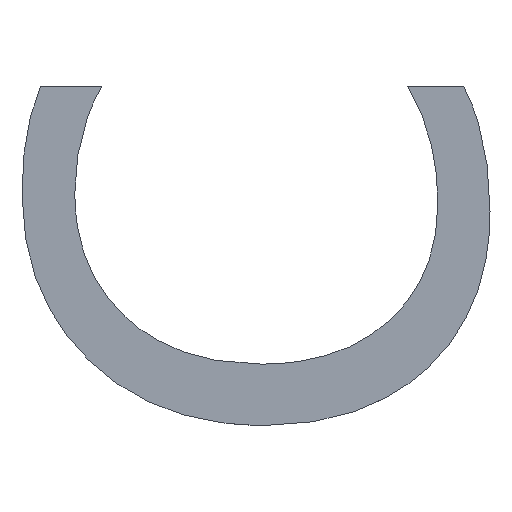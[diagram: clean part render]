
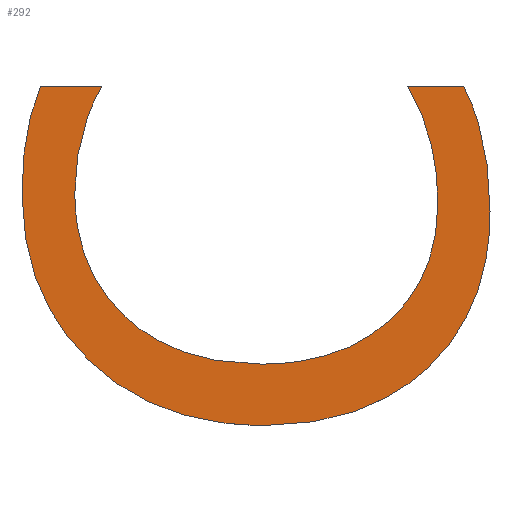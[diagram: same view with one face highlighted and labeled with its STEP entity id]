
A CAD part, top view. The second image highlights one B-rep face of the part: STEP entity #292.
In plain terms, the highlighted planar face has unit normal (0, 0, 1).
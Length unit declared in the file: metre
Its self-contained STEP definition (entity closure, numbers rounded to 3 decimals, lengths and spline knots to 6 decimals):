
#26=LINE('',#521,#44);
#27=LINE('',#553,#45);
#44=VECTOR('',#428,1.);
#45=VECTOR('',#429,1.);
#74=ORIENTED_EDGE('',*,*,#158,.T.);
#75=ORIENTED_EDGE('',*,*,#159,.T.);
#76=ORIENTED_EDGE('',*,*,#160,.T.);
#77=ORIENTED_EDGE('',*,*,#161,.T.);
#78=ORIENTED_EDGE('',*,*,#162,.T.);
#79=ORIENTED_EDGE('',*,*,#163,.T.);
#80=ORIENTED_EDGE('',*,*,#164,.T.);
#81=ORIENTED_EDGE('',*,*,#165,.T.);
#82=ORIENTED_EDGE('',*,*,#166,.T.);
#83=ORIENTED_EDGE('',*,*,#167,.T.);
#84=ORIENTED_EDGE('',*,*,#168,.T.);
#85=ORIENTED_EDGE('',*,*,#169,.T.);
#86=ORIENTED_EDGE('',*,*,#170,.T.);
#87=ORIENTED_EDGE('',*,*,#171,.T.);
#158=EDGE_CURVE('',#200,#201,#226,.T.);
#159=EDGE_CURVE('',#201,#202,#26,.T.);
#160=EDGE_CURVE('',#202,#203,#227,.T.);
#161=EDGE_CURVE('',#203,#204,#228,.T.);
#162=EDGE_CURVE('',#204,#205,#229,.T.);
#163=EDGE_CURVE('',#205,#206,#230,.T.);
#164=EDGE_CURVE('',#206,#207,#231,.T.);
#165=EDGE_CURVE('',#207,#208,#232,.T.);
#166=EDGE_CURVE('',#208,#209,#27,.T.);
#167=EDGE_CURVE('',#209,#210,#233,.T.);
#168=EDGE_CURVE('',#210,#211,#234,.T.);
#169=EDGE_CURVE('',#211,#212,#235,.T.);
#170=EDGE_CURVE('',#212,#213,#236,.T.);
#171=EDGE_CURVE('',#213,#200,#237,.T.);
#200=VERTEX_POINT('',#519);
#201=VERTEX_POINT('',#520);
#202=VERTEX_POINT('',#522);
#203=VERTEX_POINT('',#527);
#204=VERTEX_POINT('',#532);
#205=VERTEX_POINT('',#537);
#206=VERTEX_POINT('',#542);
#207=VERTEX_POINT('',#547);
#208=VERTEX_POINT('',#552);
#209=VERTEX_POINT('',#554);
#210=VERTEX_POINT('',#559);
#211=VERTEX_POINT('',#564);
#212=VERTEX_POINT('',#569);
#213=VERTEX_POINT('',#574);
#226=B_SPLINE_CURVE_WITH_KNOTS('',3,(#515,#516,#517,#518),.UNSPECIFIED.,
 .F.,.F.,(4,4),(0.,1.),.UNSPECIFIED.);
#227=B_SPLINE_CURVE_WITH_KNOTS('',3,(#523,#524,#525,#526),.UNSPECIFIED.,
 .F.,.F.,(4,4),(12.,13.),.UNSPECIFIED.);
#228=B_SPLINE_CURVE_WITH_KNOTS('',3,(#528,#529,#530,#531),.UNSPECIFIED.,
 .F.,.F.,(4,4),(11.,12.),.UNSPECIFIED.);
#229=B_SPLINE_CURVE_WITH_KNOTS('',3,(#533,#534,#535,#536),.UNSPECIFIED.,
 .F.,.F.,(4,4),(10.,11.),.UNSPECIFIED.);
#230=B_SPLINE_CURVE_WITH_KNOTS('',3,(#538,#539,#540,#541),.UNSPECIFIED.,
 .F.,.F.,(4,4),(9.,10.),.UNSPECIFIED.);
#231=B_SPLINE_CURVE_WITH_KNOTS('',3,(#543,#544,#545,#546),.UNSPECIFIED.,
 .F.,.F.,(4,4),(8.,9.),.UNSPECIFIED.);
#232=B_SPLINE_CURVE_WITH_KNOTS('',3,(#548,#549,#550,#551),.UNSPECIFIED.,
 .F.,.F.,(4,4),(7.,8.),.UNSPECIFIED.);
#233=B_SPLINE_CURVE_WITH_KNOTS('',3,(#555,#556,#557,#558),.UNSPECIFIED.,
 .F.,.F.,(4,4),(5.,6.),.UNSPECIFIED.);
#234=B_SPLINE_CURVE_WITH_KNOTS('',3,(#560,#561,#562,#563),.UNSPECIFIED.,
 .F.,.F.,(4,4),(4.,5.),.UNSPECIFIED.);
#235=B_SPLINE_CURVE_WITH_KNOTS('',3,(#565,#566,#567,#568),.UNSPECIFIED.,
 .F.,.F.,(4,4),(3.,4.),.UNSPECIFIED.);
#236=B_SPLINE_CURVE_WITH_KNOTS('',3,(#570,#571,#572,#573),.UNSPECIFIED.,
 .F.,.F.,(4,4),(2.,3.),.UNSPECIFIED.);
#237=B_SPLINE_CURVE_WITH_KNOTS('',3,(#575,#576,#577,#578),.UNSPECIFIED.,
 .F.,.F.,(4,4),(1.,2.),.UNSPECIFIED.);
#239=EDGE_LOOP('',(#74,#75,#76,#77,#78,#79,#80,#81,#82,#83,#84,#85,#86,
#87));
#255=FACE_BOUND('',#239,.T.);
#271=PLANE('',#417);
#292=ADVANCED_FACE('',(#255),#271,.T.);
#417=AXIS2_PLACEMENT_3D('',#514,#426,#427);
#426=DIRECTION('',(0.,0.,1.));
#427=DIRECTION('',(-1.,0.,0.));
#428=DIRECTION('',(-1.,0.,0.));
#429=DIRECTION('',(-1.,0.,0.));
#514=CARTESIAN_POINT('',(-0.070774,-0.023065,0.010548));
#515=CARTESIAN_POINT('',(-0.070773,-0.023074,0.010548));
#516=CARTESIAN_POINT('',(-0.070773,-0.023068,0.010548));
#517=CARTESIAN_POINT('',(-0.070774,-0.023062,0.010548));
#518=CARTESIAN_POINT('',(-0.070777,-0.023058,0.010548));
#519=CARTESIAN_POINT('',(-0.070773,-0.023074,0.010548));
#520=CARTESIAN_POINT('',(-0.070777,-0.023058,0.010548));
#521=CARTESIAN_POINT('',(-0.070784,-0.023058,0.010548));
#522=CARTESIAN_POINT('',(-0.070784,-0.023058,0.010548));
#523=CARTESIAN_POINT('',(-0.070784,-0.023058,0.010548));
#524=CARTESIAN_POINT('',(-0.070782,-0.023062,0.010548));
#525=CARTESIAN_POINT('',(-0.07078,-0.023067,0.010548));
#526=CARTESIAN_POINT('',(-0.07078,-0.023073,0.010548));
#527=CARTESIAN_POINT('',(-0.07078,-0.023073,0.010548));
#528=CARTESIAN_POINT('',(-0.07078,-0.023073,0.010548));
#529=CARTESIAN_POINT('',(-0.07078,-0.02308,0.010548));
#530=CARTESIAN_POINT('',(-0.070782,-0.023085,0.010548));
#531=CARTESIAN_POINT('',(-0.070787,-0.023089,0.010548));
#532=CARTESIAN_POINT('',(-0.070787,-0.023089,0.010548));
#533=CARTESIAN_POINT('',(-0.070787,-0.023089,0.010548));
#534=CARTESIAN_POINT('',(-0.070791,-0.023093,0.010548));
#535=CARTESIAN_POINT('',(-0.070797,-0.023095,0.010548));
#536=CARTESIAN_POINT('',(-0.070804,-0.023095,0.010548));
#537=CARTESIAN_POINT('',(-0.070804,-0.023095,0.010548));
#538=CARTESIAN_POINT('',(-0.070804,-0.023095,0.010548));
#539=CARTESIAN_POINT('',(-0.070812,-0.023095,0.010548));
#540=CARTESIAN_POINT('',(-0.070818,-0.023093,0.010548));
#541=CARTESIAN_POINT('',(-0.070822,-0.023089,0.010548));
#542=CARTESIAN_POINT('',(-0.070822,-0.023089,0.010548));
#543=CARTESIAN_POINT('',(-0.070822,-0.023089,0.010548));
#544=CARTESIAN_POINT('',(-0.070827,-0.023084,0.010548));
#545=CARTESIAN_POINT('',(-0.070829,-0.023079,0.010548));
#546=CARTESIAN_POINT('',(-0.070829,-0.023072,0.010548));
#547=CARTESIAN_POINT('',(-0.070829,-0.023072,0.010548));
#548=CARTESIAN_POINT('',(-0.070829,-0.023072,0.010548));
#549=CARTESIAN_POINT('',(-0.070829,-0.023067,0.010548));
#550=CARTESIAN_POINT('',(-0.070828,-0.023062,0.010548));
#551=CARTESIAN_POINT('',(-0.070826,-0.023058,0.010548));
#552=CARTESIAN_POINT('',(-0.070826,-0.023058,0.010548));
#553=CARTESIAN_POINT('',(-0.070834,-0.023058,0.010548));
#554=CARTESIAN_POINT('',(-0.070834,-0.023058,0.010548));
#555=CARTESIAN_POINT('',(-0.070834,-0.023058,0.010548));
#556=CARTESIAN_POINT('',(-0.070835,-0.023061,0.010548));
#557=CARTESIAN_POINT('',(-0.070836,-0.023066,0.010548));
#558=CARTESIAN_POINT('',(-0.070836,-0.023072,0.010548));
#559=CARTESIAN_POINT('',(-0.070836,-0.023072,0.010548));
#560=CARTESIAN_POINT('',(-0.070836,-0.023072,0.010548));
#561=CARTESIAN_POINT('',(-0.070836,-0.023081,0.010548));
#562=CARTESIAN_POINT('',(-0.070833,-0.023088,0.010548));
#563=CARTESIAN_POINT('',(-0.070827,-0.023094,0.010548));
#564=CARTESIAN_POINT('',(-0.070827,-0.023094,0.010548));
#565=CARTESIAN_POINT('',(-0.070827,-0.023094,0.010548));
#566=CARTESIAN_POINT('',(-0.070821,-0.0231,0.010548));
#567=CARTESIAN_POINT('',(-0.070813,-0.023103,0.010548));
#568=CARTESIAN_POINT('',(-0.070804,-0.023103,0.010548));
#569=CARTESIAN_POINT('',(-0.070804,-0.023103,0.010548));
#570=CARTESIAN_POINT('',(-0.070804,-0.023103,0.010548));
#571=CARTESIAN_POINT('',(-0.070794,-0.023103,0.010548));
#572=CARTESIAN_POINT('',(-0.070787,-0.023101,0.010548));
#573=CARTESIAN_POINT('',(-0.070782,-0.023095,0.010548));
#574=CARTESIAN_POINT('',(-0.070782,-0.023095,0.010548));
#575=CARTESIAN_POINT('',(-0.070782,-0.023095,0.010548));
#576=CARTESIAN_POINT('',(-0.070776,-0.02309,0.010548));
#577=CARTESIAN_POINT('',(-0.070773,-0.023083,0.010548));
#578=CARTESIAN_POINT('',(-0.070773,-0.023074,0.010548));
